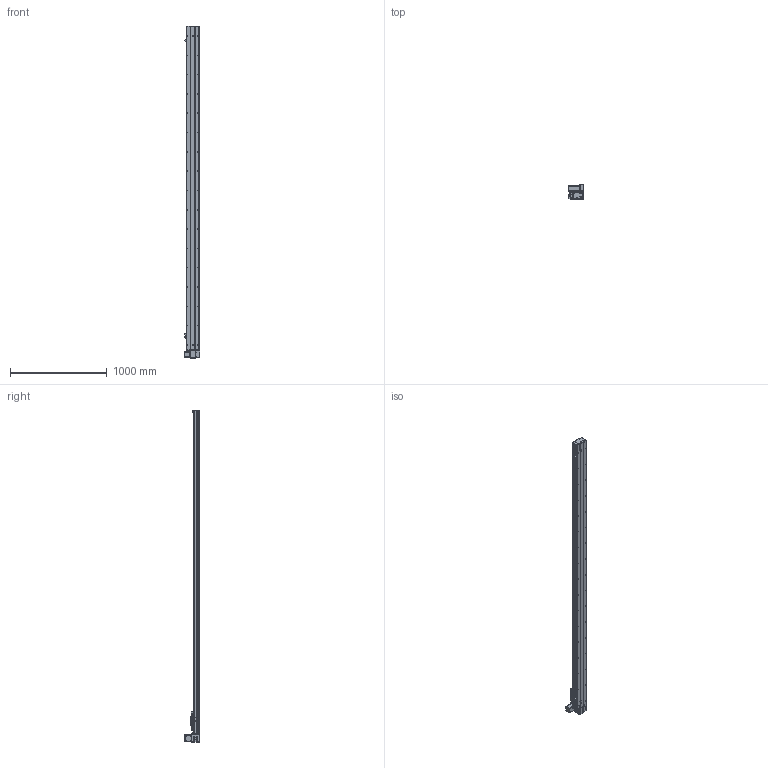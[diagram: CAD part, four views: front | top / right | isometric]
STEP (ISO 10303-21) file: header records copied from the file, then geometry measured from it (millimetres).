
FILE_DESCRIPTION (( 'STEP AP203' ), '1' );
FILE_NAME ('Y135CB-D90-S3050-UL-P400W.STEP', '2020-02-18T08:18:16', ( '微软用户' ), ( '微软中国' ), 'SwSTEP 2.0', 'SolidWorks 2017', '' );
FILE_SCHEMA (( 'CONFIG_CONTROL_DESIGN' ));
Length unit declared in the file: millimetre
Products named in the file (18): 5C--俋欶; 0B-源倛裔啣; C-雄赽釱--; 0B-萇儂楊擘啣; Y10B-耜蚾蟀諉啣----; san松下电机400不带刹车----; 00B-俋欶BM--; 5CB --掛极耜裔啣-; Y10B--々湍喘謫眊--666; C-詩湍揤踡え-陔; Y135CB-耜裔; Y135CB-D90-S3050-UL-P400W; 135CB--詩湍-CE; 135CB---遴掛极.-; Y100-135俋离換覜ん--; 35CB---喘謫眊楊擘啣; Y135C-陔俋离換覜結え-; 0B-埴倛裔啣
Assembly tree (21 placements, depth 2):
  Y135CB-D90-S3050-UL-P400W
    Y135CB-耜裔
    135CB---遴掛极.-
    35CB---喘謫眊楊擘啣
    0B-埴倛裔啣
    0B-源倛裔啣
    0B-萇儂楊擘啣
    san松下电机400不带刹车----
    5CB --掛极耜裔啣-  x2
    C-詩湍揤踡え-陔  x2
    135CB--詩湍-CE
    Y100-135俋离換覜ん--  x3
    Y135C-陔俋离換覜結え-
    5C--俋欶
    C-雄赽釱--
    Y10B-耜蚾蟀諉啣----
    00B-俋欶BM--
    Y10B--々湍喘謫眊--666
Bounding box: 157 x 158.7 x 3438 mm (x, y, z)
Volume: 9710177.7 mm3; surface area: 3853364.7 mm2
Topology: 21 solids, 21 shells, 985 faces, 2707 edges, 1794 vertices
Faces by surface type: cylinder 513, plane 456, cone 16
Entity records: 31369 total; most frequent: CARTESIAN_POINT 5252, DIRECTION 5215, ORIENTED_EDGE 4890, EDGE_CURVE 2445, AXIS2_PLACEMENT_3D 1917, VERTEX_POINT 1622, LINE 1381, VECTOR 1381
